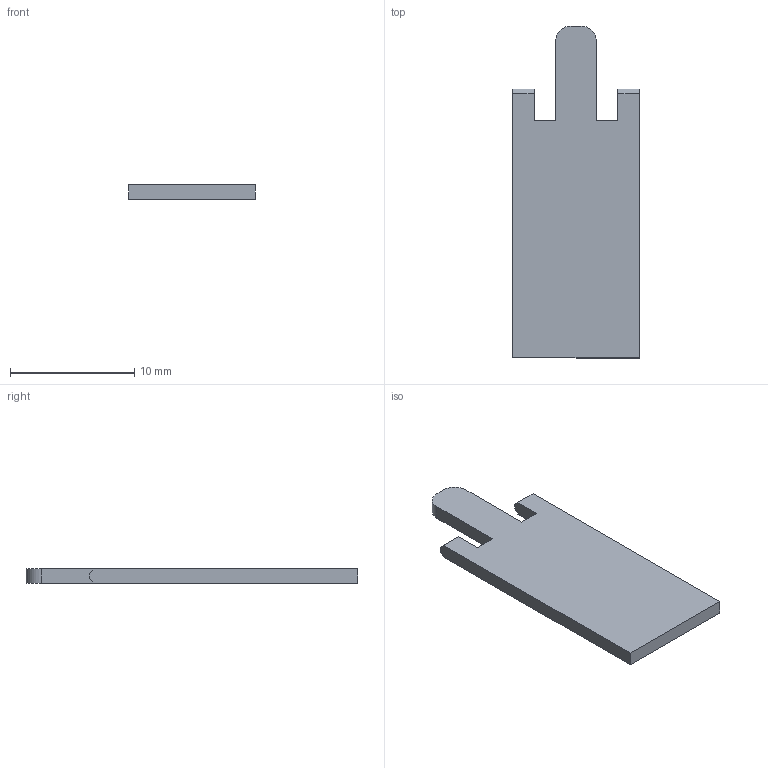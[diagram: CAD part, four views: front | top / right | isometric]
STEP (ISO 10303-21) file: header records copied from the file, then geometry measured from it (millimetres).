
FILE_DESCRIPTION (( 'STEP AP214' ), '1' );
FILE_NAME ('DDT-0020-00 JackRing 3D Printed Tool Flat V2.STEP', '2025-08-16T13:06:06', ( '' ), ( '' ), 'SwSTEP 2.0', 'SolidWorks 2025', '' );
FILE_SCHEMA (( 'AUTOMOTIVE_DESIGN' ));
Length unit declared in the file: inch
Products named in the file (1): DDT-0020-00 JackRing 3D Printed Tool Flat V2
Bounding box: 10.16 x 26.67 x 1.14 mm (x, y, z)
Volume: 258.7 mm3; surface area: 545.9 mm2
Topology: 1 solids, 1 shells, 20 faces, 54 edges, 36 vertices
Faces by surface type: plane 18, cylinder 2
Entity records: 649 total; most frequent: CARTESIAN_POINT 111, ORIENTED_EDGE 108, DIRECTION 100, EDGE_CURVE 54, VECTOR 50, LINE 50, VERTEX_POINT 36, AXIS2_PLACEMENT_3D 25
